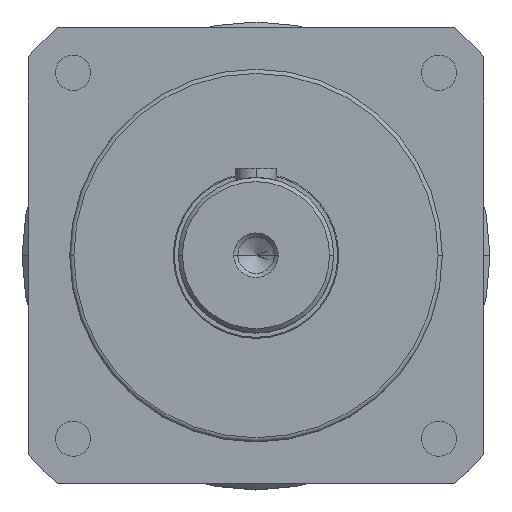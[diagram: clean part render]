
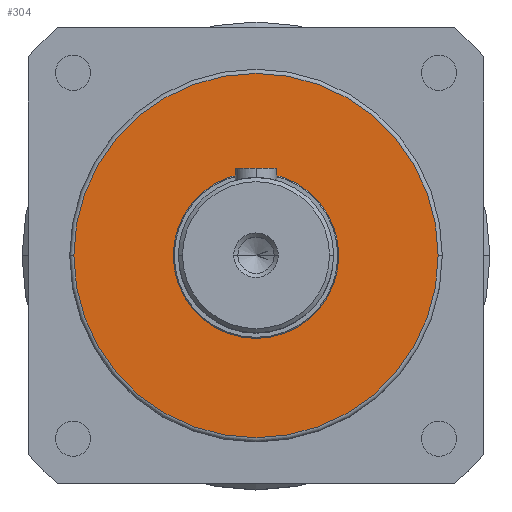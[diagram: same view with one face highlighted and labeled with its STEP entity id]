
A CAD part, top view. The second image highlights one B-rep face of the part: STEP entity #304.
In plain terms, the highlighted planar face has unit normal (0, 0, 1).
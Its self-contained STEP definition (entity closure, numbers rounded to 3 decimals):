
#6 = AXIS2_PLACEMENT_3D ( 'NONE', #1286, #5128, #4706 ) ;
#29 = EDGE_CURVE ( 'NONE', #1121, #2685, #4665, .T. ) ;
#304 = ADVANCED_FACE ( 'NONE', ( #4295, #2829 ), #378, .T. ) ;
#333 = DIRECTION ( 'NONE',  ( 0., 0., 1. ) ) ;
#378 = PLANE ( 'NONE',  #6 ) ;
#561 = DIRECTION ( 'NONE',  ( 1., 0., 0. ) ) ;
#706 = EDGE_LOOP ( 'NONE', ( #2909, #2713 ) ) ;
#840 = VERTEX_POINT ( 'NONE', #4648 ) ;
#887 = DIRECTION ( 'NONE',  ( 0., 0., 1. ) ) ;
#961 = CARTESIAN_POINT ( 'NONE',  ( 0., 0., 50. ) ) ;
#1051 = CARTESIAN_POINT ( 'NONE',  ( 88., 0., 50. ) ) ;
#1121 = VERTEX_POINT ( 'NONE', #4390 ) ;
#1153 = AXIS2_PLACEMENT_3D ( 'NONE', #961, #333, #1946 ) ;
#1188 = AXIS2_PLACEMENT_3D ( 'NONE', #4812, #2679, #561 ) ;
#1286 = CARTESIAN_POINT ( 'NONE',  ( 0., 0., 50. ) ) ;
#1688 = VERTEX_POINT ( 'NONE', #1051 ) ;
#1783 = CARTESIAN_POINT ( 'NONE',  ( 0., 0., 50. ) ) ;
#1946 = DIRECTION ( 'NONE',  ( 1., 0., 0. ) ) ;
#2081 = EDGE_CURVE ( 'NONE', #840, #1688, #5190, .T. ) ;
#2220 = DIRECTION ( 'NONE',  ( 0., 0., 1. ) ) ;
#2328 = EDGE_CURVE ( 'NONE', #1688, #840, #2577, .T. ) ;
#2413 = EDGE_LOOP ( 'NONE', ( #2441, #3626 ) ) ;
#2441 = ORIENTED_EDGE ( 'NONE', *, *, #2328, .T. ) ;
#2577 = CIRCLE ( 'NONE', #4970, 88. ) ;
#2679 = DIRECTION ( 'NONE',  ( 0., 0., 1. ) ) ;
#2685 = VERTEX_POINT ( 'NONE', #4859 ) ;
#2702 = AXIS2_PLACEMENT_3D ( 'NONE', #1783, #2220, #3497 ) ;
#2713 = ORIENTED_EDGE ( 'NONE', *, *, #29, .F. ) ;
#2829 = FACE_OUTER_BOUND ( 'NONE', #2413, .T. ) ;
#2909 = ORIENTED_EDGE ( 'NONE', *, *, #3077, .F. ) ;
#3077 = EDGE_CURVE ( 'NONE', #2685, #1121, #5248, .T. ) ;
#3424 = CARTESIAN_POINT ( 'NONE',  ( 0., 0., 50. ) ) ;
#3459 = DIRECTION ( 'NONE',  ( 1., 0., 0. ) ) ;
#3497 = DIRECTION ( 'NONE',  ( 1., 0., 0. ) ) ;
#3626 = ORIENTED_EDGE ( 'NONE', *, *, #2081, .T. ) ;
#4295 = FACE_BOUND ( 'NONE', #706, .T. ) ;
#4390 = CARTESIAN_POINT ( 'NONE',  ( 40., 0., 50. ) ) ;
#4648 = CARTESIAN_POINT ( 'NONE',  ( -88., 0., 50. ) ) ;
#4665 = CIRCLE ( 'NONE', #2702, 40. ) ;
#4706 = DIRECTION ( 'NONE',  ( 1., 0., 0. ) ) ;
#4812 = CARTESIAN_POINT ( 'NONE',  ( 0., 0., 50. ) ) ;
#4859 = CARTESIAN_POINT ( 'NONE',  ( -40., 0., 50. ) ) ;
#4970 = AXIS2_PLACEMENT_3D ( 'NONE', #3424, #887, #3459 ) ;
#5128 = DIRECTION ( 'NONE',  ( 0., 0., 1. ) ) ;
#5190 = CIRCLE ( 'NONE', #1153, 88. ) ;
#5248 = CIRCLE ( 'NONE', #1188, 40. ) ;
